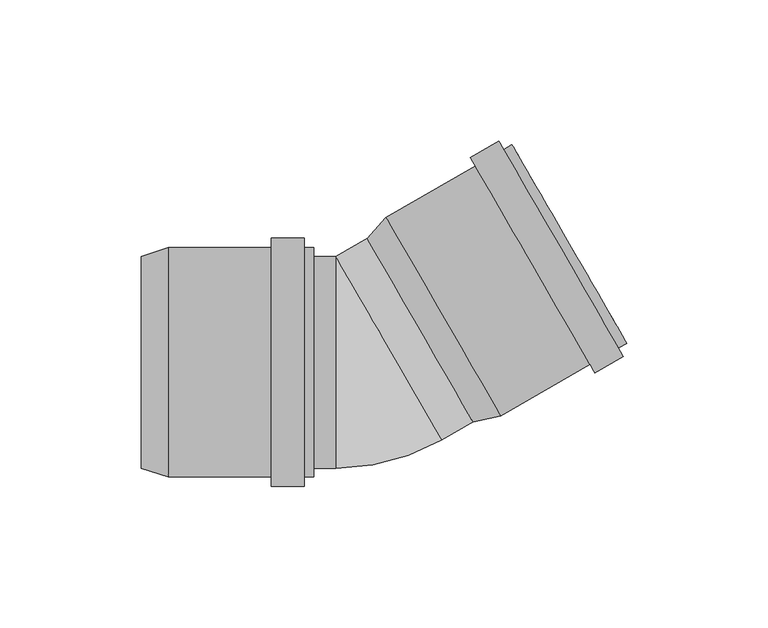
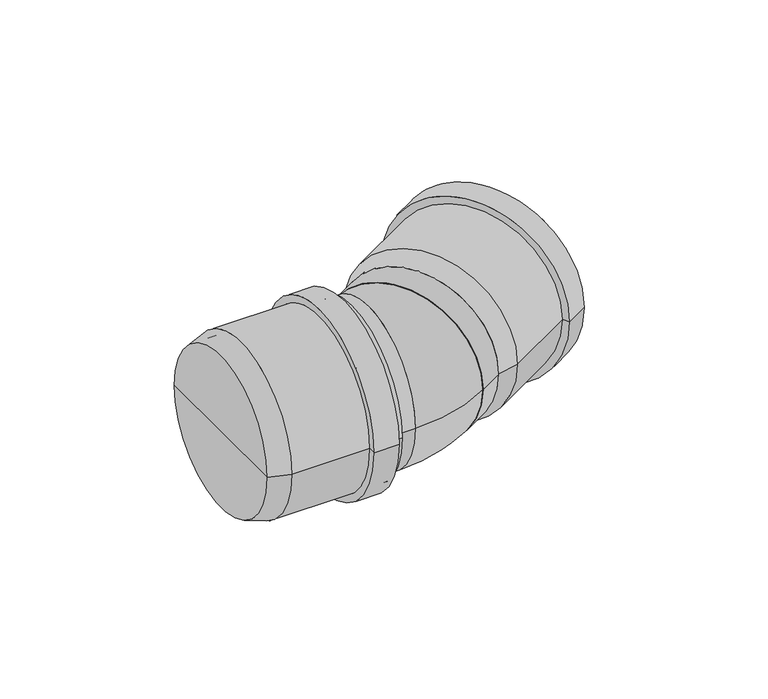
"""IFC4 building model written with IfcOpenShell, lengths in millimetres: pipe fitting geometry, pf_HTB : pf_HTB."""

from ifc_helpers import new_model, si_unit, point, frame, origin, origin_2d, place, context, project, spatial, polyline, circle_curve, ellipse_curve, trimmed, segment, composite_curve, outline, extrude, source, transform, mapped, element, save
from ifc_brep_helpers import plane_surface, cylinder_surface, revolved_surface, advanced_brep


def pipe_fitting_061adc0d(model_context):
    return source(origin(), model_context, "Body", "SolidModel", [
        advanced_brep(
        [(38.4953792, -21.0759526, 0.0), (0.9953792, 43.8759526, 0.0), (7.6726205, 51.3106314, 0.0), (48.2726205, -19.0106314, 0.0), (19.7453792, 11.4, 0.0), (92.8729288, 6.7393686, 0.0), (52.2729288, 77.0606314, 0.0), (53.8229288, 74.3759526, 0.0), (91.3229288, 9.4240474, 0.0), (89.9284425, 5.0393686, 0.0), (49.3284425, 75.3606314, 0.0), (91.6284425, 2.0948822, 0.0), (47.6284425, 78.3051178, 0.0), (81.5825478, -3.7051178, 0.0), (37.5825478, 72.5051178, 0.0), (79.8825478, -0.7606314, 0.0), (39.2825478, 69.5606314, 0.0), (46.7226205, -16.3259526, 0.0), (9.2226205, 48.6259526, 0.0), (27.9726205, 16.15, 0.0)],
        [
            (0, 1, circle_curve(frame((19.7453792, 11.4, 0.0), z_axis=(0.866025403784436, 0.5000000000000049, 0.0), x_axis=(-0.5000000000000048, 0.8660254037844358, 0.0)), 37.5)),
            (1, 2),
            (2, 3, circle_curve(frame((27.9726205, 16.15, 0.0), z_axis=(-0.866025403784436, -0.5000000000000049, 0.0), x_axis=(-0.5000000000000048, 0.8660254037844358, 0.0)), 40.6)),
            (3, 0),
            (1, 0, circle_curve(frame((19.7453792, 11.4, 0.0), z_axis=(0.866025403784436, 0.5000000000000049, 0.0), x_axis=(-0.5000000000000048, 0.8660254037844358, 0.0)), 37.5)),
            (3, 2, circle_curve(frame((27.9726205, 16.15, 0.0), z_axis=(-0.866025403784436, -0.5000000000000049, 0.0), x_axis=(-0.5000000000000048, 0.8660254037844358, 0.0)), 40.6)),
            (4, 1),
            (0, 4),
            (5, 6, circle_curve(frame((72.5729288, 41.9, 0.0), z_axis=(0.866025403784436, 0.5000000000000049, 0.0), x_axis=(-0.5000000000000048, 0.8660254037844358, 0.0)), 40.6)),
            (6, 7),
            (7, 8, circle_curve(frame((72.5729288, 41.9, 0.0), z_axis=(-0.866025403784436, -0.5000000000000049, 0.0), x_axis=(-0.5000000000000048, 0.8660254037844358, 0.0)), 37.5)),
            (8, 5),
            (6, 5, circle_curve(frame((72.5729288, 41.9, 0.0), z_axis=(0.866025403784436, 0.5000000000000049, 0.0), x_axis=(-0.5000000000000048, 0.8660254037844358, 0.0)), 40.6)),
            (8, 7, circle_curve(frame((72.5729288, 41.9, 0.0), z_axis=(-0.866025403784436, -0.5000000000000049, 0.0), x_axis=(-0.5000000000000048, 0.8660254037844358, 0.0)), 37.5)),
            (9, 10, circle_curve(frame((69.6284425, 40.2, 0.0), z_axis=(0.866025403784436, 0.5000000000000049, 0.0), x_axis=(-0.5000000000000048, 0.8660254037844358, 0.0)), 40.6)),
            (10, 6),
            (5, 9),
            (10, 9, circle_curve(frame((69.6284425, 40.2, 0.0), z_axis=(0.866025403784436, 0.5000000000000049, 0.0), x_axis=(-0.5000000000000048, 0.8660254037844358, 0.0)), 40.6)),
            (11, 12, circle_curve(frame((69.6284425, 40.2, 0.0), z_axis=(0.866025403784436, 0.5000000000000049, 0.0), x_axis=(-0.5000000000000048, 0.8660254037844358, 0.0)), 44.0)),
            (12, 10),
            (9, 11),
            (12, 11, circle_curve(frame((69.6284425, 40.2, 0.0), z_axis=(0.866025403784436, 0.5000000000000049, 0.0), x_axis=(-0.5000000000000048, 0.8660254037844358, 0.0)), 44.0)),
            (13, 14, circle_curve(frame((59.5825478, 34.4, 0.0), z_axis=(0.866025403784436, 0.5000000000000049, 0.0), x_axis=(-0.5000000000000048, 0.8660254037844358, 0.0)), 44.0)),
            (14, 12),
            (11, 13),
            (14, 13, circle_curve(frame((59.5825478, 34.4, 0.0), z_axis=(0.866025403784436, 0.5000000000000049, 0.0), x_axis=(-0.5000000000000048, 0.8660254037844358, 0.0)), 44.0)),
            (15, 16, circle_curve(frame((59.5825478, 34.4, 0.0), z_axis=(0.866025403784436, 0.5000000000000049, 0.0), x_axis=(-0.5000000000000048, 0.8660254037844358, 0.0)), 40.6)),
            (16, 14),
            (13, 15),
            (16, 15, circle_curve(frame((59.5825478, 34.4, 0.0), z_axis=(0.866025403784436, 0.5000000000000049, 0.0), x_axis=(-0.5000000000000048, 0.8660254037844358, 0.0)), 40.6)),
            (2, 16),
            (15, 3),
            (17, 18, circle_curve(frame((27.9726205, 16.15, 0.0), z_axis=(0.866025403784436, 0.5000000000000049, 0.0), x_axis=(-0.5000000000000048, 0.8660254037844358, 0.0)), 37.5)),
            (18, 19),
            (19, 17),
            (18, 17, circle_curve(frame((27.9726205, 16.15, 0.0), z_axis=(0.866025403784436, 0.5000000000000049, 0.0), x_axis=(-0.5000000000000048, 0.8660254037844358, 0.0)), 37.5)),
            (7, 18),
            (17, 8),
        ],
        [
            revolved_surface(polyline([(7.6726205, 51.3106314, 0.0), (0.9953792, 43.8759526, 0.0)]), (19.7453792, 11.4, 0.0), (-0.8660254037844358, -0.5000000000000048, 0.0)),
            plane_surface(frame((19.7453792, 11.4, 0.0), z_axis=(-0.8660254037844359, -0.5000000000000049, 0.0), x_axis=(-0.5000000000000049, 0.8660254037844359, 0.0))),
            plane_surface(frame((72.5729288, 41.9, 0.0), z_axis=(0.8660254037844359, 0.5000000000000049, 0.0), x_axis=(-0.5000000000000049, 0.8660254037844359, 0.0))),
            cylinder_surface(frame((19.7453792, 11.4, 0.0), z_axis=(-0.8660254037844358, -0.5000000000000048, 0.0), x_axis=(-0.5000000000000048, 0.8660254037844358, 0.0)), 40.6),
            plane_surface(frame((69.6284425, 40.2, 0.0), z_axis=(0.8660254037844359, 0.5000000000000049, 0.0), x_axis=(-0.5000000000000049, 0.8660254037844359, 0.0))),
            cylinder_surface(frame((19.7453792, 11.4, 0.0), z_axis=(-0.8660254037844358, -0.5000000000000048, 0.0), x_axis=(-0.5000000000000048, 0.8660254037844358, 0.0)), 44.0),
            plane_surface(frame((59.5825478, 34.4, 0.0), z_axis=(-0.8660254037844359, -0.5000000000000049, 0.0), x_axis=(-0.5000000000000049, 0.8660254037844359, 0.0))),
            plane_surface(frame((27.9726205, 16.15, 0.0), z_axis=(0.8660254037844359, 0.5000000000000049, 0.0), x_axis=(-0.5000000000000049, 0.8660254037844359, 0.0))),
            revolved_surface(polyline([(9.222620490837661, 48.625952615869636, 0.0), (53.822928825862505, 74.37595263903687, 0.0)]), (19.7453792, 11.4, 0.0), (-0.8660254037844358, -0.5000000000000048, 0.0)),
        ],
        [
            (0, [[1, 2, 3, 4]]),
            (0, [[5, -4, 6, -2]]),
            (1, [[7, -1, 8]]),
            (1, [[-8, -5, -7]]),
            (2, [[9, 10, 11, 12]]),
            (2, [[13, -12, 14, -10]]),
            (3, [[15, 16, -9, 17]]),
            (3, [[18, -17, -13, -16]]),
            (4, [[19, 20, -15, 21]]),
            (4, [[22, -21, -18, -20]]),
            (5, [[23, 24, -19, 25]]),
            (5, [[26, -25, -22, -24]]),
            (6, [[27, 28, -23, 29]]),
            (6, [[30, -29, -26, -28]]),
            (3, [[-3, 31, -27, 32]]),
            (3, [[-6, -32, -30, -31]]),
            (7, [[33, 34, 35]]),
            (7, [[36, -35, -34]]),
            (8, [[-11, 37, -33, 38]]),
            (8, [[-14, -38, -36, -37]]),
        ],
    ),
        advanced_brep(
        [(-78.9, -37.5, 0.0), (-78.9, 37.5, 0.0), (-69.4, 40.6, 0.0), (-69.4, -40.6, 0.0), (-78.9, 0.0, 0.0), (-17.9, -40.6, 0.0), (-17.9, 40.6, 0.0), (-17.9, 37.5, 0.0), (-17.9, -37.5, 0.0), (-21.3, -40.6, 0.0), (-21.3, 40.6, 0.0), (-21.3, -44.0, 0.0), (-21.3, 44.0, 0.0), (-32.9, -44.0, 0.0), (-32.9, 44.0, 0.0), (-32.9, -40.6, 0.0), (-32.9, 40.6, 0.0), (-69.4, -37.5, 0.0), (-69.4, 37.5, 0.0), (-69.4, 0.0, 0.0)],
        [
            (0, 1, circle_curve(frame((-78.9, 0.0, 0.0), z_axis=(1.0, 0.0, 0.0), x_axis=(0.0, 1.0, 0.0)), 37.5)),
            (1, 2),
            (2, 3, circle_curve(frame((-69.4, 0.0, 0.0), z_axis=(-1.0, 0.0, 0.0), x_axis=(0.0, 1.0, 0.0)), 40.6)),
            (3, 0),
            (1, 0, circle_curve(frame((-78.9, 0.0, 0.0), z_axis=(1.0, 0.0, 0.0), x_axis=(0.0, 1.0, 0.0)), 37.5)),
            (3, 2, circle_curve(frame((-69.4, 0.0, 0.0), z_axis=(-1.0, 0.0, 0.0), x_axis=(0.0, 1.0, 0.0)), 40.6)),
            (4, 1),
            (0, 4),
            (5, 6, circle_curve(frame((-17.9, 0.0, 0.0), z_axis=(1.0, 0.0, 0.0), x_axis=(0.0, 1.0, 0.0)), 40.6)),
            (6, 7),
            (7, 8, circle_curve(frame((-17.9, 0.0, 0.0), z_axis=(-1.0, 0.0, 0.0), x_axis=(0.0, 1.0, 0.0)), 37.5)),
            (8, 5),
            (6, 5, circle_curve(frame((-17.9, 0.0, 0.0), z_axis=(1.0, 0.0, 0.0), x_axis=(0.0, 1.0, 0.0)), 40.6)),
            (8, 7, circle_curve(frame((-17.9, 0.0, 0.0), z_axis=(-1.0, 0.0, 0.0), x_axis=(0.0, 1.0, 0.0)), 37.5)),
            (9, 10, circle_curve(frame((-21.3, 0.0, 0.0), z_axis=(1.0, 0.0, 0.0), x_axis=(0.0, 1.0, 0.0)), 40.6)),
            (10, 6),
            (5, 9),
            (10, 9, circle_curve(frame((-21.3, 0.0, 0.0), z_axis=(1.0, 0.0, 0.0), x_axis=(0.0, 1.0, 0.0)), 40.6)),
            (11, 12, circle_curve(frame((-21.3, 0.0, 0.0), z_axis=(1.0, 0.0, 0.0), x_axis=(0.0, 1.0, 0.0)), 44.0)),
            (12, 10),
            (9, 11),
            (12, 11, circle_curve(frame((-21.3, 0.0, 0.0), z_axis=(1.0, 0.0, 0.0), x_axis=(0.0, 1.0, 0.0)), 44.0)),
            (13, 14, circle_curve(frame((-32.9, 0.0, 0.0), z_axis=(1.0, 0.0, 0.0), x_axis=(0.0, 1.0, 0.0)), 44.0)),
            (14, 12),
            (11, 13),
            (14, 13, circle_curve(frame((-32.9, 0.0, 0.0), z_axis=(1.0, 0.0, 0.0), x_axis=(0.0, 1.0, 0.0)), 44.0)),
            (15, 16, circle_curve(frame((-32.9, 0.0, 0.0), z_axis=(1.0, 0.0, 0.0), x_axis=(0.0, 1.0, 0.0)), 40.6)),
            (16, 14),
            (13, 15),
            (16, 15, circle_curve(frame((-32.9, 0.0, 0.0), z_axis=(1.0, 0.0, 0.0), x_axis=(0.0, 1.0, 0.0)), 40.6)),
            (2, 16),
            (15, 3),
            (17, 18, circle_curve(frame((-69.4, 0.0, 0.0), z_axis=(1.0, 0.0, 0.0), x_axis=(0.0, 1.0, 0.0)), 37.5)),
            (18, 19),
            (19, 17),
            (18, 17, circle_curve(frame((-69.4, 0.0, 0.0), z_axis=(1.0, 0.0, 0.0), x_axis=(0.0, 1.0, 0.0)), 37.5)),
            (7, 18),
            (17, 8),
        ],
        [
            revolved_surface(polyline([(-69.4, 40.6, 0.0), (-78.9, 37.5, 0.0)]), (-78.9, 0.0, 0.0), (-1.0, 0.0, 0.0)),
            plane_surface(frame((-78.9, 0.0, 0.0), z_axis=(-1.0, 0.0, 0.0), x_axis=(0.0, 1.0, 0.0))),
            plane_surface(frame((-17.9, 0.0, 0.0), z_axis=(1.0, 0.0, 0.0), x_axis=(0.0, 1.0, 0.0))),
            cylinder_surface(frame((-78.9, 0.0, 0.0), z_axis=(-1.0, 0.0, 0.0), x_axis=(0.0, 1.0, 0.0)), 40.6),
            plane_surface(frame((-21.3, 0.0, 0.0), z_axis=(1.0, 0.0, 0.0), x_axis=(0.0, 1.0, 0.0))),
            cylinder_surface(frame((-78.9, 0.0, 0.0), z_axis=(-1.0, 0.0, 0.0), x_axis=(0.0, 1.0, 0.0)), 44.0),
            plane_surface(frame((-32.9, 0.0, 0.0), z_axis=(-1.0, 0.0, 0.0), x_axis=(0.0, 1.0, 0.0))),
            plane_surface(frame((-69.4, 0.0, 0.0), z_axis=(1.0, 0.0, 0.0), x_axis=(0.0, 1.0, 0.0))),
            revolved_surface(polyline([(-69.4, 37.5, 0.0), (-17.9, 37.5, 0.0)]), (-78.9, 0.0, 0.0), (-1.0, 0.0, 0.0)),
        ],
        [
            (0, [[1, 2, 3, 4]]),
            (0, [[5, -4, 6, -2]]),
            (1, [[7, -1, 8]]),
            (1, [[-8, -5, -7]]),
            (2, [[9, 10, 11, 12]]),
            (2, [[13, -12, 14, -10]]),
            (3, [[15, 16, -9, 17]]),
            (3, [[18, -17, -13, -16]]),
            (4, [[19, 20, -15, 21]]),
            (4, [[22, -21, -18, -20]]),
            (5, [[23, 24, -19, 25]]),
            (5, [[26, -25, -22, -24]]),
            (6, [[27, 28, -23, 29]]),
            (6, [[30, -29, -26, -28]]),
            (3, [[-3, 31, -27, 32]]),
            (3, [[-6, -32, -30, -31]]),
            (7, [[33, 34, 35]]),
            (7, [[36, -35, -34]]),
            (8, [[-11, 37, -33, 38]]),
            (8, [[-14, -38, -36, -37]]),
        ],
    ),
        extrude(outline(composite_curve([segment(trimmed(circle_curve(origin_2d(), 37.5), [point((0.0, -37.5))], [point((0.0, 37.5000001))], False, "CARTESIAN"), True, "CONTINUOUS"), segment(trimmed(circle_curve(origin_2d(), 37.5), [point((0.0, 37.5000001))], [point((0.0, -37.5))], False, "CARTESIAN"), True, "CONTINUOUS")], self_intersect=False)), frame((8.7019053, 5.0240474, 0.0), z_axis=(0.8660254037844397, 0.49999999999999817, 0.0), x_axis=(0.0, 0.0, 1.0)), (0.0, 0.0, 1.0), 22.2519053),
        extrude(outline(composite_curve([segment(trimmed(circle_curve(origin_2d(), 37.5), [point((-37.5, 0.0))], [point((37.5, 0.0))], False, "CARTESIAN"), True, "CONTINUOUS"), segment(trimmed(circle_curve(origin_2d(), 37.5), [point((37.5, 0.0))], [point((-37.5, 0.0))], False, "CARTESIAN"), True, "CONTINUOUS")], self_intersect=False)), frame((-69.4, 0.0, 0.0), z_axis=(1.0, 0.0, 0.0), x_axis=(0.0, 1.0, 0.0)), (0.0, 0.0, 1.0), 59.3519053),
        advanced_brep(
        [(-10.0480947, -37.5, 0.0), (-10.0480947, 37.5, 0.0), (27.4519053, -27.4519053, 0.0)],
        [
            (0, 1, circle_curve(frame((-10.0480947, 0.0, 0.0), z_axis=(-1.0, 0.0, 0.0), x_axis=(0.0, 1.0, 0.0)), 37.5)),
            (1, 0, circle_curve(frame((-10.0480947, 0.0, 0.0), z_axis=(-1.0, 0.0, 0.0), x_axis=(0.0, 1.0, 0.0)), 37.5)),
            (2, 1, circle_curve(frame((8.7019053, 5.0240474, 0.0), z_axis=(0.8660254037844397, 0.49999999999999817, 0.0), x_axis=(-0.49999999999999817, 0.8660254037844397, 0.0)), 37.5)),
            (1, 2, circle_curve(frame((8.7019053, 5.0240474, 0.0), z_axis=(0.8660254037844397, 0.49999999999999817, 0.0), x_axis=(-0.49999999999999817, 0.8660254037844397, 0.0)), 37.5)),
            (2, 0, circle_curve(frame((-10.0480947, 37.5, 0.0), z_axis=(0.0, 0.0, -1.0), x_axis=(0.0, -1.0, 0.0)), 75.0)),
        ],
        [
            plane_surface(frame((-10.0480947, 37.5, -14.8), z_axis=(-1.0, 0.0, 0.0), x_axis=(0.0, -1.0, 0.0))),
            plane_surface(frame((-10.0480947, 37.5, -14.8), z_axis=(0.8660254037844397, 0.4999999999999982, 0.0), x_axis=(0.4999999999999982, -0.8660254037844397, 0.0))),
            revolved_surface(trimmed(ellipse_curve(frame((-10.0480947, 0.0, 0.0), z_axis=(1.0, 0.0, 0.0), x_axis=(0.0, 1.0, 0.0)), 37.5, 37.5), [point((-10.0480947, -37.5, 0.0))], [point((-10.0480947, 37.5, 0.0))], True, "CARTESIAN"), (-10.0480947, 37.5, -14.8), (0.0, 0.0, -1.0)),
            revolved_surface(trimmed(ellipse_curve(frame((-10.0480947, 0.0, 0.0), z_axis=(1.0, 0.0, 0.0), x_axis=(0.0, 1.0, 0.0)), 37.5, 37.5), [point((-10.0480947, 37.5, 0.0))], [point((-10.0480947, -37.5, 0.0))], True, "CARTESIAN"), (-10.0480947, 37.5, -14.8), (0.0, 0.0, -1.0)),
        ],
        [
            (0, [[1, 2]]),
            (1, [[3, 4]]),
            (2, [[5, -2, -3]]),
            (3, [[-1, -5, -4]]),
        ],
    ),
    ])


if __name__ == "__main__":
    model = new_model("IFC4")
    model_context = context("Model", 3, world=origin())
    ifc_project = project(units=[si_unit("LENGTHUNIT", "METRE", prefix="MILLI")], contexts=[model_context])
    site = spatial("IfcSite", under=ifc_project)
    building = spatial("IfcBuilding", under=site)
    placement = place(None, origin())
    pipe_fitting_shape = pipe_fitting_061adc0d(model_context)
    element("IfcPipeFitting", 1, ObjectType="pf_HTB : pf_HTB", at=placement, inside=building, context=model_context, shape_type="MappedRepresentation", body=[
        mapped(pipe_fitting_shape, transform((0.0, 0.0, 0.0), x_axis=(1.0, 0.0, 0.0), y_axis=(0.0, 1.0, 0.0), z_axis=(0.0, 0.0, 1.0))),
    ])
    save(model, "model.ifc")
